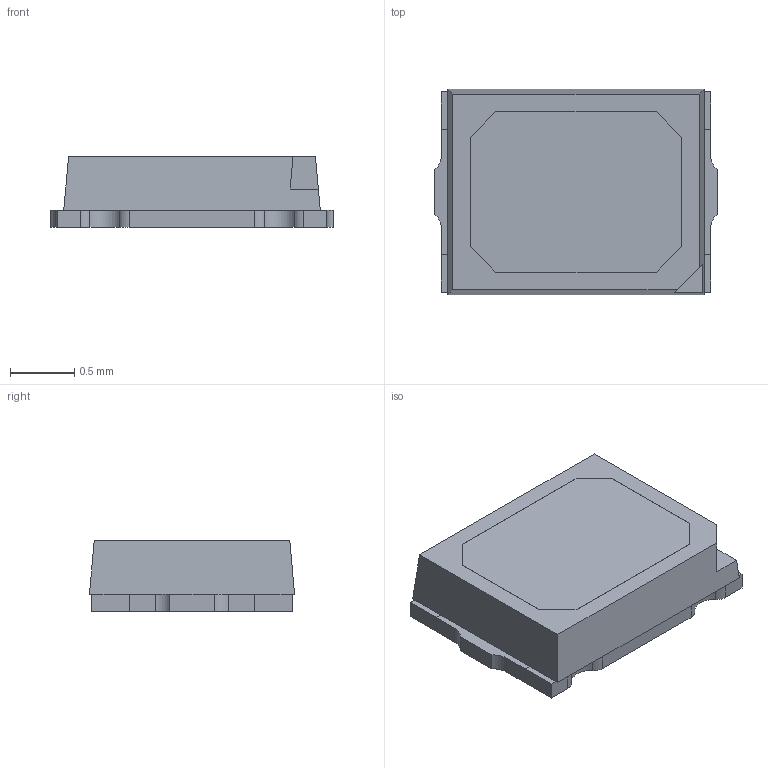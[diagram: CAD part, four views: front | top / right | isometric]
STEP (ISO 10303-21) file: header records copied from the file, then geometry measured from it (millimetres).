
FILE_DESCRIPTION (( 'STEP AP214' ), '1' );
FILE_NAME ('2016C-A-0.2W.STEP', '2025-02-20T06:51:23', ( '' ), ( '' ), 'SwSTEP 2.0', 'SolidWorks 2022', '' );
FILE_SCHEMA (( 'AUTOMOTIVE_DESIGN' ));
Length unit declared in the file: millimetre
Products named in the file (1): 2016C-A-0.2W
Bounding box: 2.2 x 1.6 x 0.55 mm (x, y, z)
Surface area: 21 mm2 (no closed solid volume)
Topology: 0 solids, 5 shells, 140 faces, 398 edges, 268 vertices
Faces by surface type: plane 92, cylinder 48
Entity records: 6030 total; most frequent: CARTESIAN_POINT 807, ORIENTED_EDGE 788, DIRECTION 776, EDGE_CURVE 398, LINE 302, VECTOR 302, VERTEX_POINT 268, AXIS2_PLACEMENT_3D 237
